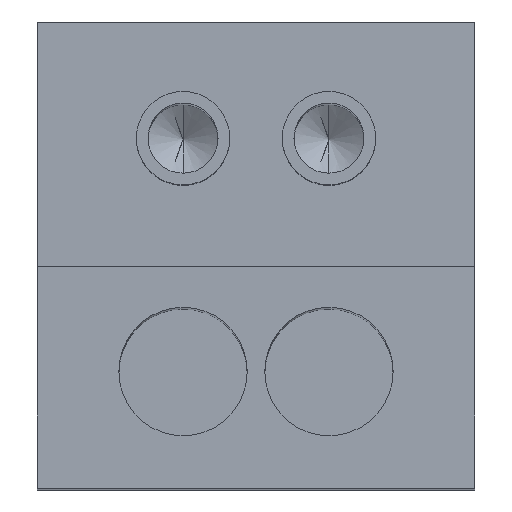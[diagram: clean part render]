
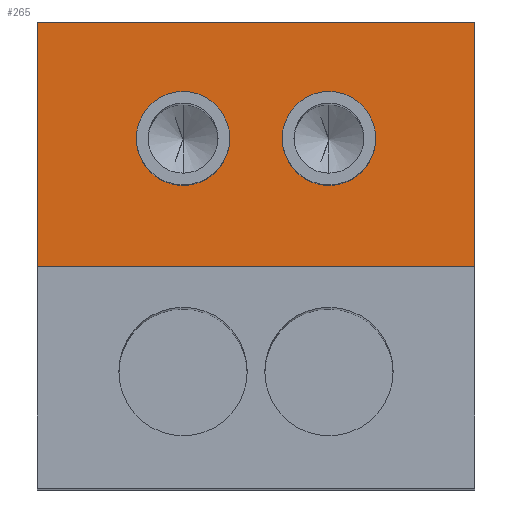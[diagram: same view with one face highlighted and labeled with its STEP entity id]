
A CAD part, top view. The second image highlights one B-rep face of the part: STEP entity #265.
In plain terms, the highlighted planar face has unit normal (0, 0, 1).
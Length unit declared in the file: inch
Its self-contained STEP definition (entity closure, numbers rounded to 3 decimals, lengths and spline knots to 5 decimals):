
#19 = VECTOR ( 'NONE', #315, 39.37008 ) ;
#84 = CARTESIAN_POINT ( 'NONE',  ( -0.0125, 0.06, 0.1 ) ) ;
#85 = CARTESIAN_POINT ( 'NONE',  ( 0.0375, 0.08, 0.1 ) ) ;
#89 = DIRECTION ( 'NONE',  ( -1., 0., 0. ) ) ;
#91 = EDGE_LOOP ( 'NONE', ( #225, #1585, #1463, #698 ) ) ;
#124 = EDGE_CURVE ( 'NONE', #156, #1053, #1117, .T. ) ;
#149 = EDGE_CURVE ( 'NONE', #633, #1128, #1241, .T. ) ;
#156 = VERTEX_POINT ( 'NONE', #193 ) ;
#164 = CARTESIAN_POINT ( 'NONE',  ( 0.0375, 0.08, 0.1 ) ) ;
#192 = EDGE_LOOP ( 'NONE', ( #1410, #1622 ) ) ;
#193 = CARTESIAN_POINT ( 'NONE',  ( -0.0125, 0.068, 0.1 ) ) ;
#214 = CARTESIAN_POINT ( 'NONE',  ( -0.0375, 0.038, 0.1 ) ) ;
#225 = ORIENTED_EDGE ( 'NONE', *, *, #1325, .T. ) ;
#232 = FACE_BOUND ( 'NONE', #192, .T. ) ;
#262 = VECTOR ( 'NONE', #1115, 39.37008 ) ;
#265 = ADVANCED_FACE ( 'NONE', ( #372, #232, #577 ), #1496, .F. ) ;
#284 = LINE ( 'NONE', #369, #853 ) ;
#300 = EDGE_CURVE ( 'NONE', #1159, #1635, #530, .T. ) ;
#313 = CARTESIAN_POINT ( 'NONE',  ( -0.0125, 0.052, 0.1 ) ) ;
#315 = DIRECTION ( 'NONE',  ( 0., -1., 0. ) ) ;
#346 = CIRCLE ( 'NONE', #1448, 0.008 ) ;
#369 = CARTESIAN_POINT ( 'NONE',  ( 0.0375, 0.038, 0.1 ) ) ;
#372 = FACE_BOUND ( 'NONE', #444, .T. ) ;
#376 = DIRECTION ( 'NONE',  ( 0., -1., 0. ) ) ;
#380 = CARTESIAN_POINT ( 'NONE',  ( -0.0125, 0.06, 0.1 ) ) ;
#382 = DIRECTION ( 'NONE',  ( 0., 0., 1. ) ) ;
#385 = DIRECTION ( 'NONE',  ( 0., 1., 0. ) ) ;
#433 = CARTESIAN_POINT ( 'NONE',  ( 0.0125, 0.052, 0.1 ) ) ;
#444 = EDGE_LOOP ( 'NONE', ( #490, #1002 ) ) ;
#477 = DIRECTION ( 'NONE',  ( 0., 0., -1. ) ) ;
#481 = LINE ( 'NONE', #1290, #19 ) ;
#490 = ORIENTED_EDGE ( 'NONE', *, *, #1561, .F. ) ;
#515 = CARTESIAN_POINT ( 'NONE',  ( 0.0125, 0.06, 0.1 ) ) ;
#530 = CIRCLE ( 'NONE', #1065, 0.008 ) ;
#552 = VECTOR ( 'NONE', #89, 39.37008 ) ;
#577 = FACE_OUTER_BOUND ( 'NONE', #91, .T. ) ;
#633 = VERTEX_POINT ( 'NONE', #1588 ) ;
#678 = CARTESIAN_POINT ( 'NONE',  ( 0.0125, 0.06, 0.1 ) ) ;
#682 = DIRECTION ( 'NONE',  ( 0., 0., 1. ) ) ;
#686 = DIRECTION ( 'NONE',  ( 0., 1., 0. ) ) ;
#698 = ORIENTED_EDGE ( 'NONE', *, *, #1480, .T. ) ;
#779 = VERTEX_POINT ( 'NONE', #164 ) ;
#801 = CARTESIAN_POINT ( 'NONE',  ( 0.0375, 0.038, 0.1 ) ) ;
#853 = VECTOR ( 'NONE', #376, 39.37008 ) ;
#858 = DIRECTION ( 'NONE',  ( 0., 0., 1. ) ) ;
#1002 = ORIENTED_EDGE ( 'NONE', *, *, #124, .F. ) ;
#1053 = VERTEX_POINT ( 'NONE', #313 ) ;
#1065 = AXIS2_PLACEMENT_3D ( 'NONE', #515, #858, #1087 ) ;
#1067 = LINE ( 'NONE', #85, #552 ) ;
#1082 = AXIS2_PLACEMENT_3D ( 'NONE', #1643, #477, #1633 ) ;
#1087 = DIRECTION ( 'NONE',  ( 0., 1., 0. ) ) ;
#1115 = DIRECTION ( 'NONE',  ( -1., 0., 0. ) ) ;
#1117 = CIRCLE ( 'NONE', #1280, 0.008 ) ;
#1128 = VERTEX_POINT ( 'NONE', #214 ) ;
#1159 = VERTEX_POINT ( 'NONE', #433 ) ;
#1198 = CARTESIAN_POINT ( 'NONE',  ( 0.0125, 0.068, 0.1 ) ) ;
#1241 = LINE ( 'NONE', #801, #262 ) ;
#1280 = AXIS2_PLACEMENT_3D ( 'NONE', #84, #1589, #1515 ) ;
#1290 = CARTESIAN_POINT ( 'NONE',  ( -0.0375, 0.038, 0.1 ) ) ;
#1325 = EDGE_CURVE ( 'NONE', #1658, #1128, #481, .T. ) ;
#1355 = CARTESIAN_POINT ( 'NONE',  ( -0.0375, 0.08, 0.1 ) ) ;
#1402 = CIRCLE ( 'NONE', #1550, 0.008 ) ;
#1410 = ORIENTED_EDGE ( 'NONE', *, *, #300, .F. ) ;
#1448 = AXIS2_PLACEMENT_3D ( 'NONE', #678, #682, #686 ) ;
#1463 = ORIENTED_EDGE ( 'NONE', *, *, #1569, .F. ) ;
#1480 = EDGE_CURVE ( 'NONE', #779, #1658, #1067, .T. ) ;
#1496 = PLANE ( 'NONE',  #1082 ) ;
#1515 = DIRECTION ( 'NONE',  ( 0., 1., 0. ) ) ;
#1550 = AXIS2_PLACEMENT_3D ( 'NONE', #380, #382, #385 ) ;
#1561 = EDGE_CURVE ( 'NONE', #1053, #156, #1402, .T. ) ;
#1569 = EDGE_CURVE ( 'NONE', #779, #633, #284, .T. ) ;
#1585 = ORIENTED_EDGE ( 'NONE', *, *, #149, .F. ) ;
#1588 = CARTESIAN_POINT ( 'NONE',  ( 0.0375, 0.038, 0.1 ) ) ;
#1589 = DIRECTION ( 'NONE',  ( 0., 0., 1. ) ) ;
#1622 = ORIENTED_EDGE ( 'NONE', *, *, #1707, .F. ) ;
#1633 = DIRECTION ( 'NONE',  ( 0., 1., 0. ) ) ;
#1635 = VERTEX_POINT ( 'NONE', #1198 ) ;
#1643 = CARTESIAN_POINT ( 'NONE',  ( 0.0375, 0.038, 0.1 ) ) ;
#1658 = VERTEX_POINT ( 'NONE', #1355 ) ;
#1707 = EDGE_CURVE ( 'NONE', #1635, #1159, #346, .T. ) ;
